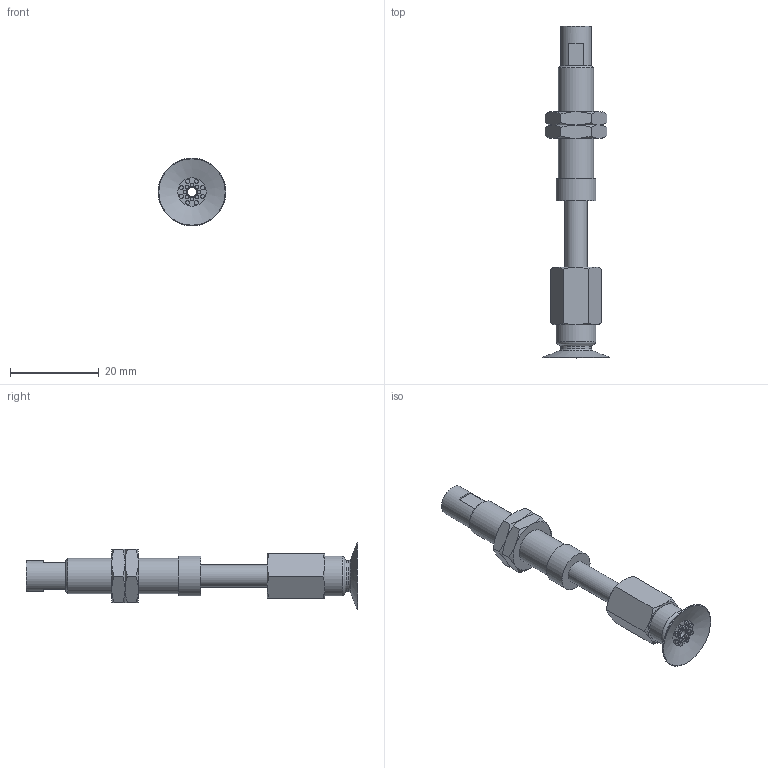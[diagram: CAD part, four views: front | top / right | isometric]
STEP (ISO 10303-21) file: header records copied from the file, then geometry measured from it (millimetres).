
FILE_DESCRIPTION(('STEP AP203'),'1');
FILE_NAME('.stp','2025-08-26T08:48:27',(' '),(' '),'Spatial InterOp 3D',' ',' ');
FILE_SCHEMA(('CONFIG_CONTROL_DESIGN'));
Length unit declared in the file: millimetre
Products named in the file (6): BNABPATS-15A-15-※; ADAPTER; NAPATS-10A-15--M; NAPATS-10A-15--F; Nut-10A-S; BPAG-15A-※_3D
Assembly tree (6 placements, depth 2):
  BNABPATS-15A-15-※
    ADAPTER
    NAPATS-10A-15--M
    NAPATS-10A-15--F
    Nut-10A-S  x2
    BPAG-15A-※_3D
Bounding box: 15.3 x 75 x 15.3 mm (x, y, z)
Volume: 3959.4 mm3; surface area: 4864.9 mm2
Topology: 6 solids, 6 shells, 144 faces, 280 edges, 171 vertices
Faces by surface type: plane 57, cone 45, cylinder 33, torus 9
Full cylindrical faces by diameter (mm): 0.9 x16, 2 x3, 4 x2, 4.134 x1, 5 x2, 6 x2, 7 x2, 7.188 x2, 8 x1, 9 x2
Entity records: 3264 total; most frequent: CARTESIAN_POINT 728, DIRECTION 490, ORIENTED_EDGE 352, AXIS2_PLACEMENT_3D 234, EDGE_LOOP 202, EDGE_CURVE 176, FACE_OUTER_BOUND 162, VERTEX_POINT 136
